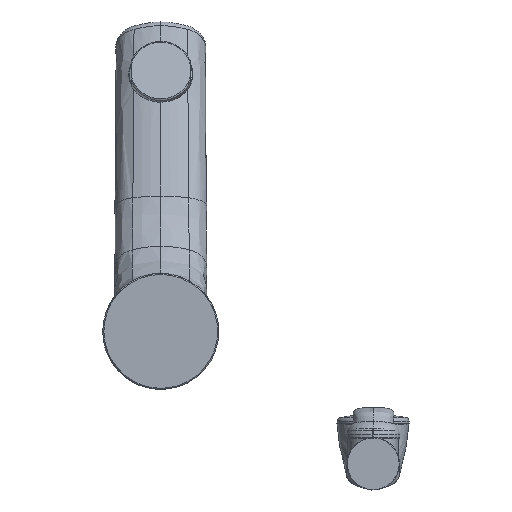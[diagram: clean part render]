
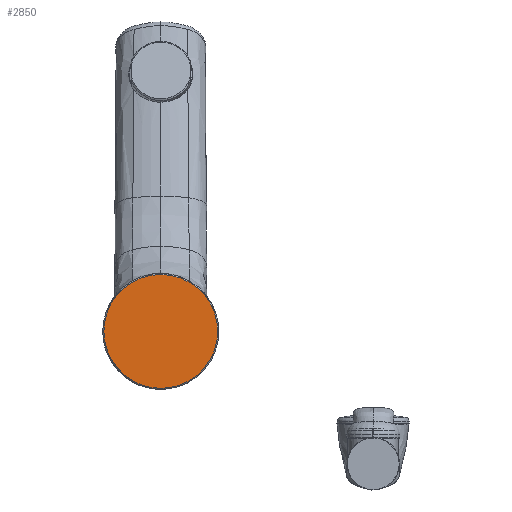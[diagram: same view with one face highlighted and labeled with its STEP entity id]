
A CAD part, front view. The second image highlights one B-rep face of the part: STEP entity #2850.
In plain terms, the highlighted planar face has unit normal (0, -1, 0).
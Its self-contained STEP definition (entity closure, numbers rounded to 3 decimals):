
#945 = CARTESIAN_POINT ( 'NONE',  ( -0.611, 0., 0. ) ) ;
#2083 = DIRECTION ( 'NONE',  ( 0., 0., 1. ) ) ;
#2850 = ADVANCED_FACE ( 'NONE', ( #12366 ), #2873, .T. ) ;
#2873 = PLANE ( 'NONE',  #8621 ) ;
#2900 = EDGE_CURVE ( 'NONE', #11629, #3335, #3772, .T. ) ;
#3335 = VERTEX_POINT ( 'NONE', #10097 ) ;
#3772 = CIRCLE ( 'NONE', #7864, 25.25 ) ;
#3896 = ORIENTED_EDGE ( 'NONE', *, *, #7433, .F. ) ;
#4199 = EDGE_LOOP ( 'NONE', ( #4399, #3896 ) ) ;
#4241 = DIRECTION ( 'NONE',  ( 0., 1., 0. ) ) ;
#4399 = ORIENTED_EDGE ( 'NONE', *, *, #2900, .F. ) ;
#5137 = DIRECTION ( 'NONE',  ( 0., -1., 0. ) ) ;
#5555 = CARTESIAN_POINT ( 'NONE',  ( -0.611, 0., 25.25 ) ) ;
#7433 = EDGE_CURVE ( 'NONE', #3335, #11629, #8942, .T. ) ;
#7614 = CARTESIAN_POINT ( 'NONE',  ( -0.611, 0., -20.642 ) ) ;
#7864 = AXIS2_PLACEMENT_3D ( 'NONE', #10962, #4241, #12100 ) ;
#8621 = AXIS2_PLACEMENT_3D ( 'NONE', #7614, #5137, #13018 ) ;
#8838 = DIRECTION ( 'NONE',  ( 0., 1., 0. ) ) ;
#8942 = CIRCLE ( 'NONE', #11088, 25.25 ) ;
#10097 = CARTESIAN_POINT ( 'NONE',  ( -0.611, 0., -25.25 ) ) ;
#10962 = CARTESIAN_POINT ( 'NONE',  ( -0.611, 0., 0. ) ) ;
#11088 = AXIS2_PLACEMENT_3D ( 'NONE', #945, #8838, #2083 ) ;
#11629 = VERTEX_POINT ( 'NONE', #5555 ) ;
#12100 = DIRECTION ( 'NONE',  ( 0., 0., 1. ) ) ;
#12366 = FACE_OUTER_BOUND ( 'NONE', #4199, .T. ) ;
#13018 = DIRECTION ( 'NONE',  ( 0., 0., -1. ) ) ;
